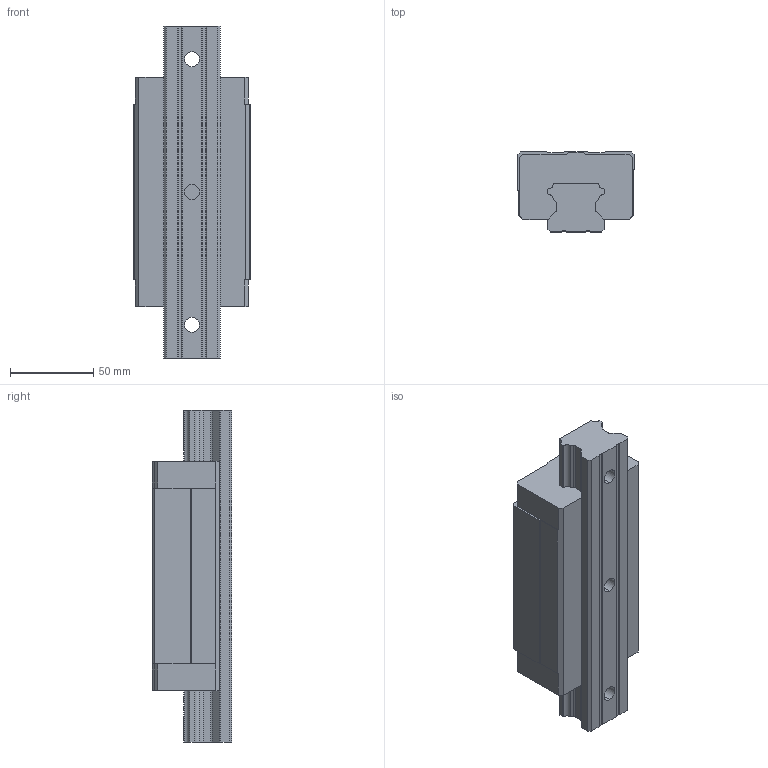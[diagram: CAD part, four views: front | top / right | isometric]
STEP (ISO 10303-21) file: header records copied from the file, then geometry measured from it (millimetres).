
FILE_DESCRIPTION (( 'STEP AP214' ), '1' );
FILE_NAME ('2.1041 Lineaarikelkka HGL35HA.STEP', '2025-09-19T06:36:39', ( '' ), ( '' ), 'SwSTEP 2.0', 'SolidWorks 2025', '' );
FILE_SCHEMA (( 'AUTOMOTIVE_DESIGN' ));
Length unit declared in the file: millimetre
Products named in the file (1): 2.1041 Lineaarikelkka HGL35HA
Bounding box: 70 x 48 x 200 mm (x, y, z)
Volume: 457638.9 mm3; surface area: 72477.5 mm2
Topology: 2 solids, 2 shells, 135 faces, 372 edges, 248 vertices
Faces by surface type: plane 97, cylinder 38
Entity records: 5811 total; most frequent: CARTESIAN_POINT 756, ORIENTED_EDGE 744, DIRECTION 720, EDGE_CURVE 372, VECTOR 296, LINE 296, VERTEX_POINT 248, AXIS2_PLACEMENT_3D 212
